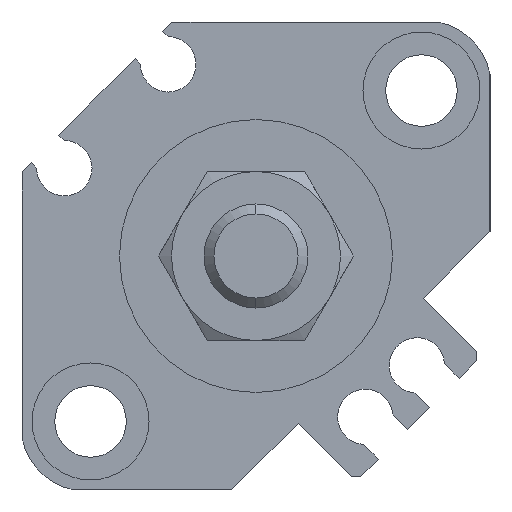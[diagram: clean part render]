
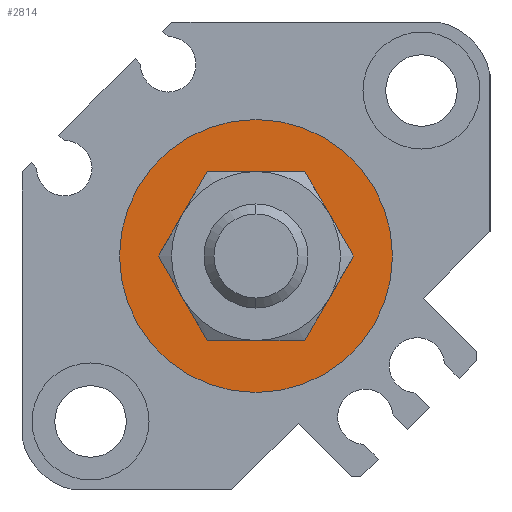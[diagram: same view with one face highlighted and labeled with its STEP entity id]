
A CAD part, left-side view. The second image highlights one B-rep face of the part: STEP entity #2814.
In plain terms, the highlighted planar face has unit normal (-1, 0, 0).
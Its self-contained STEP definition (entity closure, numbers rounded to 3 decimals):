
#142 = CARTESIAN_POINT ( 'NONE',  ( 1.6, 0., 0. ) ) ;
#224 = CIRCLE ( 'NONE', #3690, 6.5 ) ;
#248 = VERTEX_POINT ( 'NONE', #2593 ) ;
#263 = ORIENTED_EDGE ( 'NONE', *, *, #1148, .T. ) ;
#339 = DIRECTION ( 'NONE',  ( 1., 0., 0. ) ) ;
#500 = AXIS2_PLACEMENT_3D ( 'NONE', #1290, #2523, #801 ) ;
#519 = DIRECTION ( 'NONE',  ( 0., 0., -1. ) ) ;
#722 = DIRECTION ( 'NONE',  ( 1., 0., 0. ) ) ;
#742 = FACE_OUTER_BOUND ( 'NONE', #3897, .T. ) ;
#801 = DIRECTION ( 'NONE',  ( 0., 0., -1. ) ) ;
#888 = CIRCLE ( 'NONE', #3920, 6.5 ) ;
#968 = AXIS2_PLACEMENT_3D ( 'NONE', #3208, #722, #3156 ) ;
#974 = ORIENTED_EDGE ( 'NONE', *, *, #3552, .T. ) ;
#1047 = DIRECTION ( 'NONE',  ( 1., 0., 0. ) ) ;
#1148 = EDGE_CURVE ( 'NONE', #4589, #248, #224, .T. ) ;
#1174 = PLANE ( 'NONE',  #3699 ) ;
#1222 = CIRCLE ( 'NONE', #968, 10.5 ) ;
#1290 = CARTESIAN_POINT ( 'NONE',  ( 1.6, 0., 0. ) ) ;
#1692 = ORIENTED_EDGE ( 'NONE', *, *, #4151, .F. ) ;
#1711 = CIRCLE ( 'NONE', #500, 10.5 ) ;
#1854 = DIRECTION ( 'NONE',  ( 0., 0., -1. ) ) ;
#2379 = ORIENTED_EDGE ( 'NONE', *, *, #2943, .F. ) ;
#2387 = FACE_BOUND ( 'NONE', #5042, .T. ) ;
#2523 = DIRECTION ( 'NONE',  ( 1., 0., 0. ) ) ;
#2593 = CARTESIAN_POINT ( 'NONE',  ( 1.6, 0., 6.5 ) ) ;
#2814 = ADVANCED_FACE ( 'NONE', ( #742, #2387 ), #1174, .F. ) ;
#2943 = EDGE_CURVE ( 'NONE', #3962, #4172, #1711, .T. ) ;
#3156 = DIRECTION ( 'NONE',  ( 0., 0., -1. ) ) ;
#3208 = CARTESIAN_POINT ( 'NONE',  ( 1.6, 0., 0. ) ) ;
#3339 = DIRECTION ( 'NONE',  ( 1., 0., 0. ) ) ;
#3552 = EDGE_CURVE ( 'NONE', #248, #4589, #888, .T. ) ;
#3690 = AXIS2_PLACEMENT_3D ( 'NONE', #3893, #1047, #1854 ) ;
#3699 = AXIS2_PLACEMENT_3D ( 'NONE', #4050, #339, #5308 ) ;
#3893 = CARTESIAN_POINT ( 'NONE',  ( 1.6, 0., 0. ) ) ;
#3897 = EDGE_LOOP ( 'NONE', ( #2379, #1692 ) ) ;
#3920 = AXIS2_PLACEMENT_3D ( 'NONE', #142, #3339, #519 ) ;
#3962 = VERTEX_POINT ( 'NONE', #4260 ) ;
#4050 = CARTESIAN_POINT ( 'NONE',  ( 1.6, 0., 0. ) ) ;
#4151 = EDGE_CURVE ( 'NONE', #4172, #3962, #1222, .T. ) ;
#4172 = VERTEX_POINT ( 'NONE', #4871 ) ;
#4260 = CARTESIAN_POINT ( 'NONE',  ( 1.6, 0., 10.5 ) ) ;
#4589 = VERTEX_POINT ( 'NONE', #4619 ) ;
#4619 = CARTESIAN_POINT ( 'NONE',  ( 1.6, 0., -6.5 ) ) ;
#4871 = CARTESIAN_POINT ( 'NONE',  ( 1.6, 0., -10.5 ) ) ;
#5042 = EDGE_LOOP ( 'NONE', ( #974, #263 ) ) ;
#5308 = DIRECTION ( 'NONE',  ( 0., 1., 0. ) ) ;
